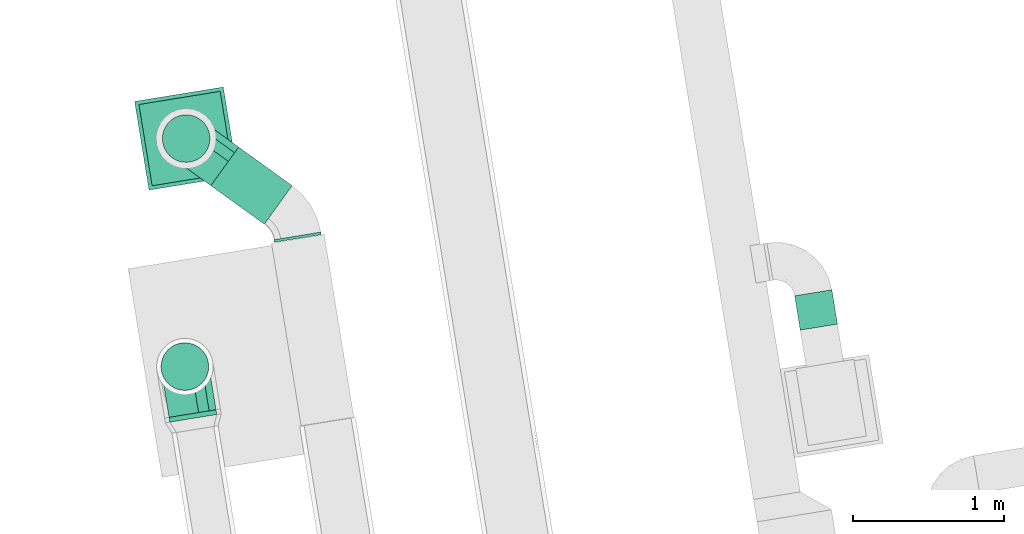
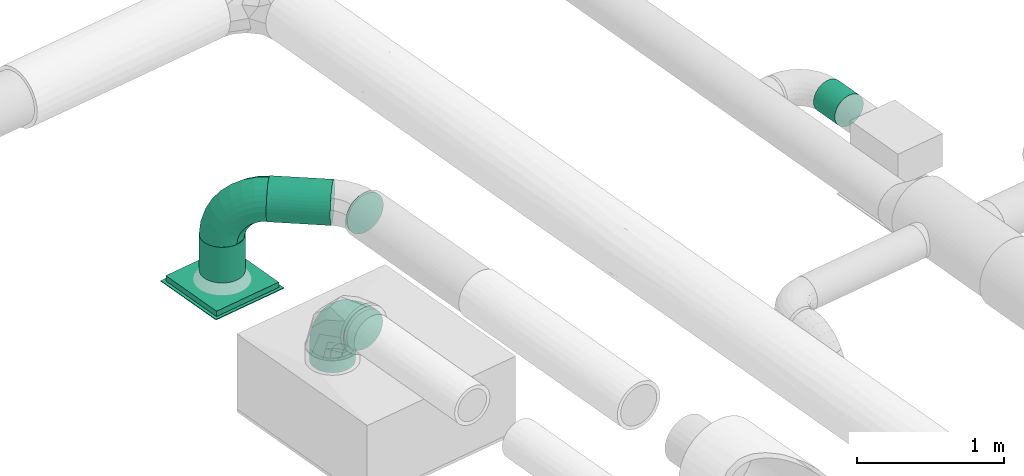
# One storey, part 24 of 39: 6 flow segments, 2 flow fittings, 1 flow terminal.
"""IFC2X3 building model written with IfcOpenShell, lengths in millimetres."""

import ifcopenshell
import ifcopenshell.guid

model = None  # the IFC model being written
_history = None  # IfcOwnerHistory: only IFC2X3 demands one
_inside = {}  # id of a spatial element -> (the spatial element, [elements in it])
_under = {}  # id of a project, library or spatial element -> (it, [spatial elements below it])
_declared = {}  # id of a project -> (the project, [libraries it declares])
_typed = {}  # id of a type object -> (the type object, [elements of that type])
_made_of = {}  # id of a material, layer set ... -> (it, [elements and type objects made of it])


def new_model(schema):
    """Start an empty IFC model of exactly this schema.

    Asked for "IFC4X3", IfcOpenShell would pick the latest addendum, in which some entities
    have other attributes; the version numbers below select the first issue.
    IFC2X3 requires an IfcOwnerHistory on every rooted entity: one is made here for all.
    """
    global model, _history
    if schema == "IFC4X3":
        model = ifcopenshell.file(schema_version=(4, 3, 0, 0))
    else:
        model = ifcopenshell.file(schema=schema)
    _inside.clear()
    _under.clear()
    _declared.clear()
    _typed.clear()
    _made_of.clear()
    _history = None
    if model.schema == "IFC2X3":
        org = make("IfcOrganization", Name="unknown")
        user = make(
            "IfcPersonAndOrganization",
            ThePerson=make("IfcPerson", FamilyName="unknown"),
            TheOrganization=org,
        )
        app = make(
            "IfcApplication",
            ApplicationDeveloper=org,
            Version="unknown",
            ApplicationFullName="unknown",
            ApplicationIdentifier="unknown",
        )
        _history = make(
            "IfcOwnerHistory",
            OwningUser=user,
            OwningApplication=app,
            ChangeAction="ADDED",
            CreationDate=0,
        )
    return model


def make(cls, **values):
    """One entity of the class cls with the attributes given. An attribute that is None is left unset."""
    return model.create_entity(
        cls, **{name: value for name, value in values.items() if value is not None}
    )


def entity(cls, *values):
    """Any entity or typed value of the class cls, its attributes in the order of the schema. None: left unset."""
    e = model.create_entity(cls)
    for i, value in enumerate(values):
        if value is not None:
            e[i] = value
    return e


def rooted(cls, **values):
    """An entity with a GlobalId (a new one), such as an element, a storey or a relation."""
    return make(cls, GlobalId=ifcopenshell.guid.new(), OwnerHistory=_history, **values)


def si_unit(unit_type, name, prefix=None):
    """IfcSIUnit, for example si_unit("LENGTHUNIT", "METRE", prefix="MILLI")."""
    return make("IfcSIUnit", UnitType=unit_type, Prefix=prefix, Name=name)


def converted_unit(unit_type, name, factor, base, dimensions=None, offset=None):
    """IfcConversionBasedUnit, such as the inch: factor (a typed value) times the base unit."""
    return make(
        "IfcConversionBasedUnit"
        if offset is None
        else "IfcConversionBasedUnitWithOffset",
        ConversionOffset=offset,
        Dimensions=None
        if dimensions is None
        else entity("IfcDimensionalExponents", *dimensions),
        UnitType=unit_type,
        Name=name,
        ConversionFactor=make(
            "IfcMeasureWithUnit", ValueComponent=factor, UnitComponent=base
        ),
    )


def derived_unit(unit_type, elements):
    """IfcDerivedUnit: a product of units, each with its exponent."""
    return make(
        "IfcDerivedUnit",
        Elements=[
            make("IfcDerivedUnitElement", Unit=unit, Exponent=power)
            for unit, power in elements
        ],
        UnitType=unit_type,
    )


def assignment(units):
    """IfcUnitAssignment: the units of a project."""
    return None if units is None else make("IfcUnitAssignment", Units=units)


def point(xyz):
    """IfcCartesianPoint."""
    return None if xyz is None else make("IfcCartesianPoint", Coordinates=xyz)


def direction(xyz):
    """IfcDirection."""
    return None if xyz is None else make("IfcDirection", DirectionRatios=xyz)


def frame(location, z_axis=None, x_axis=None):
    """IfcAxis2Placement3D, a coordinate frame: its origin and axes. An axis left out is left unset."""
    return make(
        "IfcAxis2Placement3D",
        Location=point(location),
        Axis=direction(z_axis),
        RefDirection=direction(x_axis),
    )


def frame_2d(location, x_axis=None):
    """IfcAxis2Placement2D, a coordinate frame in the plane: its origin and x axis."""
    return make(
        "IfcAxis2Placement2D", Location=point(location), RefDirection=direction(x_axis)
    )


def origin():
    """The frame at (0, 0, 0) with its axes left unset."""
    return frame((0.0, 0.0, 0.0))


def origin_with_axes():
    """The frame at (0, 0, 0) with the z axis (0, 0, 1) and the x axis (1, 0, 0) written out."""
    return frame((0.0, 0.0, 0.0), z_axis=(0.0, 0.0, 1.0), x_axis=(1.0, 0.0, 0.0))


def origin_2d_with_axis():
    """The frame at (0, 0) in the plane with the x axis (1, 0) written out."""
    return frame_2d((0.0, 0.0), x_axis=(1.0, 0.0))


def place(relative_to, where):
    """IfcLocalPlacement: puts the frame where relative to a parent placement (None: the world)."""
    return make(
        "IfcLocalPlacement", PlacementRelTo=relative_to, RelativePlacement=where
    )


def context(
    kind, dimensions, precision=None, world=None, true_north=None, identifier=None
):
    """IfcGeometricRepresentationContext, for example the 3D "Model" context."""
    return make(
        "IfcGeometricRepresentationContext",
        ContextIdentifier=identifier,
        ContextType=kind,
        CoordinateSpaceDimension=dimensions,
        Precision=precision,
        WorldCoordinateSystem=world,
        TrueNorth=true_north,
    )


def subcontext(parent, identifier, kind, view, scale=None):
    """IfcGeometricRepresentationSubContext, for example "Body" below "Model"."""
    return make(
        "IfcGeometricRepresentationSubContext",
        ContextIdentifier=identifier,
        ContextType=kind,
        ParentContext=parent,
        TargetScale=scale,
        TargetView=view,
    )


def project(units=None, contexts=None):
    """IfcProject with its units and contexts."""
    return rooted(
        "IfcProject",
        Name="project",
        RepresentationContexts=contexts,
        UnitsInContext=assignment(units),
    )


def spatial(cls, under=None, at=None, **own):
    """A site, building, storey or space (cls), placed at a placement, below another one or the project."""
    s = rooted(cls, ObjectPlacement=at, **own)
    if under is not None:
        _under.setdefault(under.id(), (under, []))[1].append(s)
    return s


def profile(cls, at=None, kind="AREA", **sizes):
    """A parametric profile (cls). Its sizes go by their IFC names, for example OverallWidth=200.0."""
    return make(cls, ProfileType=kind, Position=at, **sizes)


def rectangle(**sizes):
    """IfcRectangleProfileDef."""
    return profile("IfcRectangleProfileDef", **sizes)


def circle(**sizes):
    """IfcCircleProfileDef."""
    return profile("IfcCircleProfileDef", **sizes)


def extrude(swept, where, along, depth):
    """IfcExtrudedAreaSolid: the profile swept, set in the frame where, extruded along a direction by depth."""
    return make(
        "IfcExtrudedAreaSolid",
        SweptArea=swept,
        Position=where,
        ExtrudedDirection=direction(along),
        Depth=depth,
    )


def faces_of(points, faces, orient=None, outer=None):
    """IfcFace entities. A face is a list of loops; a loop is a list of indices into points, from 0.

    orient and outer hold one flag for each loop. By default every Orientation is true, the
    first loop of a face is its IfcFaceOuterBound and the others are IfcFaceBound.
    """
    made = []
    for i, loops in enumerate(faces):
        bounds = []
        for j, loop in enumerate(loops):
            is_outer = j == 0 if outer is None else outer[i][j]
            bounds.append(
                make(
                    "IfcFaceOuterBound" if is_outer else "IfcFaceBound",
                    Bound=make("IfcPolyLoop", Polygon=[points[k] for k in loop]),
                    Orientation=True if orient is None else orient[i][j],
                )
            )
        made.append(make("IfcFace", Bounds=bounds))
    return made


def faceted_brep(points, faces, orient=None, outer=None, voids=None):
    """IfcFacetedBrep: a solid bounded by flat faces; with voids (closed shells), ...WithVoids."""
    shared = [point(p) for p in points]
    hull = make("IfcClosedShell", CfsFaces=faces_of(shared, faces, orient, outer))
    if voids is None:
        return make("IfcFacetedBrep", Outer=hull)
    return make(
        "IfcFacetedBrepWithVoids",
        Outer=hull,
        Voids=[
            make(cls, CfsFaces=faces_of(shared, fs, o, b)) for cls, fs, o, b in voids
        ],
    )


def shape(context_of_items, identifier, shape_type, items):
    """IfcShapeRepresentation: the items that make up one representation, for example the "Body"."""
    return make(
        "IfcShapeRepresentation",
        ContextOfItems=context_of_items,
        RepresentationIdentifier=identifier,
        RepresentationType=shape_type,
        Items=items,
    )


def source(mapping_origin, context_of_items, identifier, shape_type, items):
    """IfcRepresentationMap: a shape defined once, which mapped items show again and again."""
    return make(
        "IfcRepresentationMap",
        MappingOrigin=mapping_origin,
        MappedRepresentation=shape(context_of_items, identifier, shape_type, items),
    )


def transform(
    local_origin,
    x_axis=None,
    y_axis=None,
    z_axis=None,
    scale=None,
    scale2=None,
    scale3=None,
    uniform=True,
):
    """IfcCartesianTransformationOperator3D, or its non-uniform kind. x_axis, y_axis, z_axis: its Axis1, 2, 3."""
    if uniform:
        return make(
            "IfcCartesianTransformationOperator3D",
            Axis1=direction(x_axis),
            Axis2=direction(y_axis),
            LocalOrigin=point(local_origin),
            Scale=scale,
            Axis3=direction(z_axis),
        )
    return make(
        "IfcCartesianTransformationOperator3DnonUniform",
        Axis1=direction(x_axis),
        Axis2=direction(y_axis),
        LocalOrigin=point(local_origin),
        Scale=scale,
        Axis3=direction(z_axis),
        Scale2=scale2,
        Scale3=scale3,
    )


def mapped(mapping_source, mapping_target):
    """IfcMappedItem: shows the shape of a source again, moved by a transform."""
    return make(
        "IfcMappedItem", MappingSource=mapping_source, MappingTarget=mapping_target
    )


def material(Name=None, Category=None):
    """IfcMaterial."""
    return make("IfcMaterial", Name=Name, Category=Category)


def made_of(thing, what):
    """Note that an element or type object is made of a material, layer set ...; save() writes the relation."""
    if what is not None:
        _made_of.setdefault(what.id(), (what, []))[1].append(thing)
    return thing


def type_object(cls, material=None, **own):
    """A type object (cls), such as IfcWallType, which elements share."""
    return made_of(rooted(cls, **own), material)


def element(
    cls,
    number,
    at=None,
    inside=None,
    cuts=None,
    type_object=None,
    material=None,
    context=None,
    identifier="Body",
    shape_type=None,
    held_by="IfcProductDefinitionShape",
    body=None,
    shapes=None,
    **own,
):
    """One element of the class cls, such as IfcWall. Its Tag is "e" and its number.

    at: its placement. inside: the storey or other place that contains it. cuts: it is an
    opening in that element (IfcRelVoidsElement). A single representation is given by context,
    identifier, shape_type and body (its items); several are given by shapes. held_by: the class
    of the entity that holds the representations. save() writes the other relations.
    """
    e = rooted(cls, Tag="e%d" % number, ObjectPlacement=at, **own)
    if body is not None:
        shapes = [shape(context, identifier, shape_type, body)]
    if shapes is not None:
        e.Representation = make(held_by, Representations=shapes)
    if inside is not None:
        _inside.setdefault(inside.id(), (inside, []))[1].append(e)
    if cuts is not None:
        rooted(
            "IfcRelVoidsElement", RelatingBuildingElement=cuts, RelatedOpeningElement=e
        )
    if type_object is not None:
        _typed.setdefault(type_object.id(), (type_object, []))[1].append(e)
    return made_of(e, material)


def aggregate(whole, parts):
    """IfcRelAggregates: a whole, such as a stair, and the parts it consists of."""
    return rooted("IfcRelAggregates", RelatingObject=whole, RelatedObjects=parts)


def save(model, path):
    """Write the relations noted so far, then the file.

    IfcRelAggregates (storeys below a building ...), IfcRelContainedInSpatialStructure (elements
    in a storey), IfcRelDefinesByType, IfcRelAssociatesMaterial and IfcRelDeclares: one each for
    every whole, place, type object, material and project.
    """
    for whole, parts in _under.values():
        aggregate(whole, parts)
    for where, things in _inside.values():
        rooted(
            "IfcRelContainedInSpatialStructure",
            RelatedElements=things,
            RelatingStructure=where,
        )
    for kind, things in _typed.values():
        rooted("IfcRelDefinesByType", RelatedObjects=things, RelatingType=kind)
    for what, things in _made_of.values():
        rooted("IfcRelAssociatesMaterial", RelatedObjects=things, RelatingMaterial=what)
    for by, libraries in _declared.values():
        rooted("IfcRelDeclares", RelatingContext=by, RelatedDefinitions=libraries)
    model.write(path)


model = new_model("IFC2X3")

# Units and contexts
plan_context = context("Plan", 3, precision=1e-05, world=origin_with_axes())
model_context = context("Model", 3, precision=0.01, world=origin(), true_north=direction((6.12323399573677e-17, 1.0)))
body_context = subcontext(model_context, "Body", "Model", "MODEL_VIEW")
ifc_project = project(units=[converted_unit("PLANEANGLEUNIT", "DEGREE", entity("IfcPositiveLengthMeasure", 0.0174532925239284), si_unit("PLANEANGLEUNIT", "RADIAN"), dimensions=[0, 0, 0, 0, 0, 0, 0]), si_unit("AREAUNIT", "SQUARE_METRE"), si_unit("LENGTHUNIT", "METRE", prefix="MILLI"), si_unit("MASSUNIT", "GRAM", prefix="KILO"), si_unit("POWERUNIT", "WATT"), si_unit("PRESSUREUNIT", "PASCAL", prefix="KILO"), si_unit("FORCEUNIT", "NEWTON", prefix="KILO"), si_unit("ELECTRICVOLTAGEUNIT", "VOLT"), si_unit("ELECTRICCURRENTUNIT", "AMPERE"), si_unit("THERMODYNAMICTEMPERATUREUNIT", "DEGREE_CELSIUS"), si_unit("TIMEUNIT", "SECOND"), si_unit("VOLUMEUNIT", "CUBIC_METRE"), derived_unit("LINEARVELOCITYUNIT", [(si_unit("LENGTHUNIT", "METRE"), 1), (si_unit("TIMEUNIT", "SECOND"), -1)]), derived_unit("VOLUMETRICFLOWRATEUNIT", [(si_unit("VOLUMEUNIT", "CUBIC_METRE"), 1), (si_unit("TIMEUNIT", "SECOND"), -1)]), derived_unit("THERMALTRANSMITTANCEUNIT", [(si_unit("POWERUNIT", "WATT"), 1), (si_unit("THERMODYNAMICTEMPERATUREUNIT", "KELVIN"), -1), (si_unit("AREAUNIT", "SQUARE_METRE"), -1)]), derived_unit("SOUNDPRESSUREUNIT", [(si_unit("PRESSUREUNIT", "PASCAL"), 1)])], contexts=[model_context, plan_context])

# Site, building, storey
site_placement = place(None, frame((-0.00071070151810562, 0.00438415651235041, 0.0), z_axis=(0.0, 0.0, 1.0), x_axis=(-0.160236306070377, 0.987078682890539, 0.0)))
site = spatial("IfcSite", under=ifc_project, at=site_placement, Name="Default", CompositionType="ELEMENT")
building_placement = place(site_placement, origin_with_axes())
building = spatial("IfcBuilding", under=site, at=building_placement, CompositionType="ELEMENT")
storey_placement = place(building_placement, frame((0.0, 0.0, 58999.9999999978), z_axis=(0.0, 0.0, 1.0), x_axis=(1.0, 0.0, 0.0)))
storey = spatial("IfcBuildingStorey", under=building, at=storey_placement, Name="Nivå F", CompositionType="ELEMENT", Elevation=58999.9999999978)

# Flow fittings
ifc_material = material(Name="<Unnamed>")
duct_fitting_type = type_object("IfcDuctFittingType", Name="magicirc_elbow_full_radius_1:magicirc_elbow_full_radius_001", PredefinedType="NOTDEFINED", material=ifc_material)
shared_shape_1 = source(origin(), body_context, "Body", "Brep", [
    faceted_brep([(-222.819822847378, -148.421044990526, 0.0), (-223.866810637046, -143.157481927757, 40.7639996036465), (-315.0, -152.133317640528, 40.7639996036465), (-315.0, -157.5, 0.0), (-226.936423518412, -127.725495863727, 78.7499999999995), (-315.0, -136.399001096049, 78.7499999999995), (-231.819472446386, -103.176751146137, 111.369318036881), (-315.0, -111.369318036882, 111.369318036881), (-238.183185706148, -71.1842041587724, 136.399001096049), (-315.0, -78.7500000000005, 136.399001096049), (-245.593886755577, -33.9280941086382, 152.133317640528), (-315.0, -40.7639996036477, 152.133317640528), (-253.546548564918, 6.0526366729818, 157.5), (-315.0, 0.0, 157.5), (-261.499210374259, 46.033367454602, 152.133317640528), (-315.0, 40.7639996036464, 152.133317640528), (-268.909911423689, 83.2894775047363, 136.399001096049), (-315.0, 78.7499999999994, 136.399001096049), (-275.27362468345, 115.282024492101, 111.369318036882), (-315.0, 111.369318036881, 111.369318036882), (-283.226286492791, 155.262755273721, 40.7639996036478), (-315.0, 152.133317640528, 40.7639996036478), (-284.273274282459, 160.526318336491, 0.0), (-315.0, 157.5, 0.0), (-283.226286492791, 155.262755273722, -40.763999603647), (-315.0, 152.133317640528, -40.763999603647), (-280.156673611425, 139.830769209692, -78.7499999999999), (-315.0, 136.399001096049, -78.7499999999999), (-275.27362468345, 115.282024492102, -111.369318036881), (-315.0, 111.369318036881, -111.369318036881), (-268.909911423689, 83.289477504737, -136.399001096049), (-315.0, 78.7500000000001, -136.399001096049), (-261.499210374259, 46.0333674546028, -152.133317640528), (-315.0, 40.7639996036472, -152.133317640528), (-253.546548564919, 6.05263667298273, -157.5), (-315.0, 0.0, -157.5), (-245.593886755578, -33.9280941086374, -152.133317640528), (-315.0, -40.7639996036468, -152.133317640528), (-238.183185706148, -71.1842041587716, -136.399001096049), (-315.0, -78.7499999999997, -136.399001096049), (-231.819472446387, -103.176751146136, -111.369318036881), (-315.0, -111.369318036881, -111.369318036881), (-223.866810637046, -143.157481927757, -40.7639996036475), (-315.0, -152.133317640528, -40.7639996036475), (-134.182078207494, -121.533079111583, 0.0), (-136.235818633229, -116.574911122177, 40.7639996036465), (-142.25708089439, -102.03829810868, 78.7499999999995), (-151.835525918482, -78.91388622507, 111.369318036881), (-164.318398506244, -48.7775659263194, 136.399001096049), (-178.855011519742, -13.6830776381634, 152.133317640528), (-194.454718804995, 23.9779472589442, 157.5), (-210.054426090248, 61.638972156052, 152.133317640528), (-224.591039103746, 96.7334604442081, 136.399001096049), (-237.073911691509, 126.869780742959, 111.369318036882), (-252.673618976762, 164.530805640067, 40.7639996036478), (-254.727359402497, 169.488973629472, 0.0), (-252.673618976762, 164.530805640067, -40.763999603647), (-246.652356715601, 149.994192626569, -78.7499999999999), (-237.073911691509, 126.86978074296, -111.369318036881), (-224.591039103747, 96.7334604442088, -136.399001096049), (-210.054426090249, 61.6389721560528, -152.133317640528), (-194.454718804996, 23.9779472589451, -157.5), (-178.855011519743, -13.6830776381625, -152.133317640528), (-164.318398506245, -48.7775659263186, -136.399001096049), (-151.835525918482, -78.9138862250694, -111.369318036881), (-136.23581863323, -116.574911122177, -40.7639996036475), (-52.4930648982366, -77.8693918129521, 0.0), (-55.4746338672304, -73.4071585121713, 40.7639996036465), (-64.2161517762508, -60.3245524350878, 78.7499999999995), (-78.1218986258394, -39.5131315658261, 111.369318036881), (-96.24422074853, -12.3911598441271, 136.399001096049), (-117.348111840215, 19.1930451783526, 152.133317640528), (-139.995376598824, 53.087072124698, 157.5), (-162.642641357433, 86.9810990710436, 152.133317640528), (-183.746532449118, 118.565304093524, 136.399001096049), (-201.868854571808, 145.687275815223, 111.369318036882), (-224.516119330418, 179.581302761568, 40.7639996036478), (-227.497688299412, 184.043536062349, 0.0), (-224.516119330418, 179.581302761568, -40.763999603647), (-215.774601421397, 166.498696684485, -78.7499999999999), (-201.868854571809, 145.687275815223, -111.369318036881), (-183.746532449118, 118.565304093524, -136.399001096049), (-162.642641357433, 86.9810990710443, -152.133317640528), (-139.995376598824, 53.0870721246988, -157.5), (-117.348111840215, 19.1930451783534, -152.133317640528), (-96.2442207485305, -12.3911598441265, -136.399001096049), (-78.1218986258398, -39.5131315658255, -111.369318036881), (-55.4746338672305, -73.4071585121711, -40.7639996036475), (19.1079541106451, -19.107954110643, 0.0), (15.3131366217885, -15.3131366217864, 40.7639996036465), (4.18729469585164, -4.18729469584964, 78.7499999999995), (-13.5113639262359, 13.5113639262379, 111.369318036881), (-36.5767049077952, 36.5767049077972, 136.399001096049), (-63.4368633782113, 63.4368633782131, 152.133317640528), (-92.2613639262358, 92.2613639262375, 157.5), (-121.085864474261, 121.085864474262, 152.133317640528), (-147.946022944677, 147.946022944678, 136.399001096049), (-171.011363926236, 171.011363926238, 111.369318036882), (-199.835864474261, 199.835864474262, 40.7639996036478), (-203.630681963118, 203.630681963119, 0.0), (-199.835864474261, 199.835864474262, -40.763999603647), (-188.710022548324, 188.710022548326, -78.7499999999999), (-171.011363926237, 171.011363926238, -111.369318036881), (-147.946022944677, 147.946022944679, -136.399001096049), (-121.085864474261, 121.085864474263, -152.133317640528), (-92.2613639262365, 92.2613639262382, -157.5), (-63.436863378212, 63.4368633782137, -152.133317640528), (-36.5767049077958, 36.5767049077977, -136.399001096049), (-13.5113639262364, 13.5113639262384, -111.369318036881), (15.3131366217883, -15.3131366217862, -40.7639996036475), (77.8693918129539, 52.4930648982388, 0.0), (73.4071585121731, 55.4746338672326, 40.7639996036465), (60.3245524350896, 64.216151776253, 78.7499999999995), (39.5131315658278, 78.1218986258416, 111.369318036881), (12.3911598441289, 96.2442207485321, 136.399001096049), (-19.1930451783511, 117.348111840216, 152.133317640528), (-53.0870721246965, 139.995376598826, 157.5), (-86.9810990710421, 162.642641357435, 152.133317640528), (-118.565304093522, 183.746532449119, 136.399001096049), (-145.687275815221, 201.86885457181, 111.369318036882), (-179.581302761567, 224.516119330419, 40.7639996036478), (-184.043536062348, 227.497688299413, 0.0), (-179.581302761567, 224.516119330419, -40.763999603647), (-166.498696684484, 215.774601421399, -78.7499999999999), (-145.687275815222, 201.86885457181, -111.369318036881), (-118.565304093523, 183.74653244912, -136.399001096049), (-86.9810990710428, 162.642641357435, -152.133317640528), (-53.0870721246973, 139.995376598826, -157.5), (-19.1930451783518, 117.348111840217, -152.133317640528), (12.3911598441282, 96.2442207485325, -136.399001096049), (39.5131315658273, 78.1218986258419, -111.369318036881), (73.4071585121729, 55.4746338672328, -40.7639996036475), (121.533079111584, 134.182078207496, 0.0), (116.574911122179, 136.235818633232, 40.7639996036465), (102.038298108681, 142.257080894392, 78.7499999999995), (78.9138862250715, 151.835525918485, 111.369318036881), (48.7775659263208, 164.318398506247, 136.399001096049), (13.6830776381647, 178.855011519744, 152.133317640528), (-23.9779472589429, 194.454718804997, 157.5), (-61.6389721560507, 210.05442609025, 152.133317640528), (-96.7334604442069, 224.591039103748, 136.399001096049), (-126.869780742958, 237.07391169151, 111.369318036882), (-164.530805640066, 252.673618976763, 40.7639996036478), (-169.488973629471, 254.727359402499, 0.0), (-164.530805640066, 252.673618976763, -40.763999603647), (-149.994192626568, 246.652356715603, -78.7499999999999), (-126.869780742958, 237.07391169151, -111.369318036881), (-96.7334604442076, 224.591039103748, -136.399001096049), (-61.6389721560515, 210.05442609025, -152.133317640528), (-23.9779472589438, 194.454718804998, -157.5), (13.6830776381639, 178.855011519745, -152.133317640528), (48.7775659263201, 164.318398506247, -136.399001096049), (78.9138862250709, 151.835525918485, -111.369318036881), (116.574911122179, 136.235818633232, -40.7639996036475), (148.421044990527, 222.81982284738, 0.0), (143.157481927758, 223.866810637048, 40.7639996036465), (127.725495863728, 226.936423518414, 78.7499999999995), (103.176751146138, 231.819472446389, 111.369318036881), (71.1842041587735, 238.18318570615, 136.399001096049), (33.9280941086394, 245.59388675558, 152.133317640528), (-6.05263667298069, 253.54654856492, 157.5), (-46.0333674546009, 261.499210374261, 152.133317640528), (-83.2894775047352, 268.90991142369, 136.399001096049), (-115.2820244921, 275.273624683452, 111.369318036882), (-155.26275527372, 283.226286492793, 40.7639996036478), (-160.52631833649, 284.27327428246, 0.0), (-155.262755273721, 283.226286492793, -40.763999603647), (-139.83076920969, 280.156673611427, -78.7499999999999), (-115.282024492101, 275.273624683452, -111.369318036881), (-83.2894775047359, 268.90991142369, -136.399001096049), (-46.0333674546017, 261.499210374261, -152.133317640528), (-6.05263667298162, 253.54654856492, -157.5), (33.9280941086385, 245.59388675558, -152.133317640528), (71.1842041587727, 238.183185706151, -136.399001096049), (103.176751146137, 231.819472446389, -111.369318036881), (143.157481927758, 223.866810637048, -40.7639996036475), (157.500000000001, 315.0, 0.0), (152.133317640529, 315.0, 40.7639996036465), (136.39900109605, 315.0, 78.7499999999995), (111.369318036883, 315.0, 111.369318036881), (78.7500000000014, 315.0, 136.399001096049), (40.7639996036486, 315.0, 152.133317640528), (0.0, 315.0, 157.5), (-40.7639996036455, 315.0, 152.133317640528), (-78.7499999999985, 315.0, 136.399001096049), (-111.36931803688, 315.0, 111.369318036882), (-152.133317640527, 315.0, 40.7639996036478), (-157.499999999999, 315.0, 0.0), (-152.133317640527, 315.0, -40.763999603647), (-136.399001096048, 315.0, -78.7499999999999), (-111.36931803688, 315.0, -111.369318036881), (-78.7499999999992, 315.0, -136.399001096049), (-40.7639996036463, 315.0, -152.133317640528), (0.0, 315.0, -157.5), (40.7639996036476, 315.0, -152.133317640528), (78.7500000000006, 315.0, -136.399001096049), (111.369318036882, 315.0, -111.369318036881), (152.133317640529, 315.0, -40.7639996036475)], [[[0, 1, 2, 3]], [[1, 4, 5, 2]], [[4, 6, 7, 5]], [[6, 8, 9, 7]], [[8, 10, 11, 9]], [[10, 12, 13, 11]], [[12, 14, 15, 13]], [[14, 16, 17, 15]], [[16, 18, 19, 17]], [[18, 20, 21, 19]], [[20, 22, 23, 21]], [[22, 24, 25, 23]], [[24, 26, 27, 25]], [[26, 28, 29, 27]], [[28, 30, 31, 29]], [[30, 32, 33, 31]], [[32, 34, 35, 33]], [[34, 36, 37, 35]], [[36, 38, 39, 37]], [[38, 40, 41, 39]], [[40, 42, 43, 41]], [[42, 0, 3, 43]], [[44, 45, 1, 0]], [[45, 46, 4, 1]], [[46, 47, 6, 4]], [[47, 48, 8, 6]], [[48, 49, 10, 8]], [[49, 50, 12, 10]], [[50, 51, 14, 12]], [[51, 52, 16, 14]], [[52, 53, 18, 16]], [[53, 54, 20, 18]], [[54, 55, 22, 20]], [[55, 56, 24, 22]], [[56, 57, 26, 24]], [[57, 58, 28, 26]], [[58, 59, 30, 28]], [[59, 60, 32, 30]], [[60, 61, 34, 32]], [[61, 62, 36, 34]], [[62, 63, 38, 36]], [[63, 64, 40, 38]], [[64, 65, 42, 40]], [[65, 44, 0, 42]], [[66, 67, 45, 44]], [[67, 68, 46, 45]], [[68, 69, 47, 46]], [[69, 70, 48, 47]], [[70, 71, 49, 48]], [[71, 72, 50, 49]], [[72, 73, 51, 50]], [[73, 74, 52, 51]], [[74, 75, 53, 52]], [[75, 76, 54, 53]], [[76, 77, 55, 54]], [[77, 78, 56, 55]], [[78, 79, 57, 56]], [[79, 80, 58, 57]], [[80, 81, 59, 58]], [[81, 82, 60, 59]], [[82, 83, 61, 60]], [[83, 84, 62, 61]], [[84, 85, 63, 62]], [[85, 86, 64, 63]], [[86, 87, 65, 64]], [[87, 66, 44, 65]], [[88, 89, 67, 66]], [[89, 90, 68, 67]], [[90, 91, 69, 68]], [[91, 92, 70, 69]], [[92, 93, 71, 70]], [[93, 94, 72, 71]], [[94, 95, 73, 72]], [[95, 96, 74, 73]], [[96, 97, 75, 74]], [[97, 98, 76, 75]], [[98, 99, 77, 76]], [[99, 100, 78, 77]], [[100, 101, 79, 78]], [[101, 102, 80, 79]], [[102, 103, 81, 80]], [[103, 104, 82, 81]], [[104, 105, 83, 82]], [[105, 106, 84, 83]], [[106, 107, 85, 84]], [[107, 108, 86, 85]], [[108, 109, 87, 86]], [[109, 88, 66, 87]], [[110, 111, 89, 88]], [[111, 112, 90, 89]], [[112, 113, 91, 90]], [[113, 114, 92, 91]], [[114, 115, 93, 92]], [[115, 116, 94, 93]], [[116, 117, 95, 94]], [[117, 118, 96, 95]], [[118, 119, 97, 96]], [[119, 120, 98, 97]], [[120, 121, 99, 98]], [[121, 122, 100, 99]], [[122, 123, 101, 100]], [[123, 124, 102, 101]], [[124, 125, 103, 102]], [[125, 126, 104, 103]], [[126, 127, 105, 104]], [[127, 128, 106, 105]], [[128, 129, 107, 106]], [[129, 130, 108, 107]], [[130, 131, 109, 108]], [[131, 110, 88, 109]], [[132, 133, 111, 110]], [[133, 134, 112, 111]], [[134, 135, 113, 112]], [[135, 136, 114, 113]], [[136, 137, 115, 114]], [[137, 138, 116, 115]], [[138, 139, 117, 116]], [[139, 140, 118, 117]], [[140, 141, 119, 118]], [[141, 142, 120, 119]], [[142, 143, 121, 120]], [[143, 144, 122, 121]], [[144, 145, 123, 122]], [[145, 146, 124, 123]], [[146, 147, 125, 124]], [[147, 148, 126, 125]], [[148, 149, 127, 126]], [[149, 150, 128, 127]], [[150, 151, 129, 128]], [[151, 152, 130, 129]], [[152, 153, 131, 130]], [[153, 132, 110, 131]], [[154, 155, 133, 132]], [[155, 156, 134, 133]], [[156, 157, 135, 134]], [[157, 158, 136, 135]], [[158, 159, 137, 136]], [[159, 160, 138, 137]], [[160, 161, 139, 138]], [[161, 162, 140, 139]], [[162, 163, 141, 140]], [[163, 164, 142, 141]], [[164, 165, 143, 142]], [[165, 166, 144, 143]], [[166, 167, 145, 144]], [[167, 168, 146, 145]], [[168, 169, 147, 146]], [[169, 170, 148, 147]], [[170, 171, 149, 148]], [[171, 172, 150, 149]], [[172, 173, 151, 150]], [[173, 174, 152, 151]], [[174, 175, 153, 152]], [[175, 154, 132, 153]], [[176, 177, 155, 154]], [[177, 178, 156, 155]], [[178, 179, 157, 156]], [[179, 180, 158, 157]], [[180, 181, 159, 158]], [[181, 182, 160, 159]], [[182, 183, 161, 160]], [[183, 184, 162, 161]], [[184, 185, 163, 162]], [[185, 186, 164, 163]], [[186, 187, 165, 164]], [[187, 188, 166, 165]], [[188, 189, 167, 166]], [[189, 190, 168, 167]], [[190, 191, 169, 168]], [[191, 192, 170, 169]], [[192, 193, 171, 170]], [[193, 194, 172, 171]], [[194, 195, 173, 172]], [[195, 196, 174, 173]], [[196, 197, 175, 174]], [[197, 176, 154, 175]], [[3, 2, 5, 7, 9, 11, 13, 15, 17, 19, 21, 23, 25, 27, 29, 31, 33, 35, 37, 39, 41, 43]], [[197, 196, 195, 194, 193, 192, 191, 190, 189, 188, 187, 186, 185, 184, 183, 182, 181, 180, 179, 178, 177, 176]]]),
])
for number, where, z_axis, x_axis, name in (
    (1, (781534.119644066, -501554.980498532, 3130.0), (-0.707106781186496, 0.707106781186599, 0.0), (0.707106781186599, 0.707106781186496, 0.0), "magicirc_elbow_full_radius_1:magicirc_elbow_full_radius_001"),
    (2, (780044.619644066, -501304.709617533, 3130.0), (0.0, 1.0, 0.0), (1.0, 0.0, 0.0), "magicirc_elbow_full_radius_1:magicirc_elbow_full_radius_001"),
):
    element("IfcFlowFitting", number, at=place(storey_placement, frame(where, z_axis=z_axis, x_axis=x_axis)), inside=storey, type_object=duct_fitting_type, material=ifc_material, Name=name, ObjectType="magicirc_elbow_full_radius_1:magicirc_elbow_full_radius_001", context=body_context, shape_type="MappedRepresentation", body=[
        mapped(shared_shape_1, transform((0.0, 0.0, 0.0), scale=1.0)),
    ])

# Flow terminal
air_terminal_type = type_object("IfcAirTerminalType", Name="FRALUFTSVENTIL -  - SF020T:FRALUFTSVENTIL - Orion-ATV-K-TA-T-400 - SF020T", PredefinedType="NOTDEFINED", material=ifc_material)
shared_shape_2 = source(origin(), body_context, "Body", "SweptSolid", [
    extrude(rectangle(XDim=594.999999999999, YDim=594.999999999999, at=origin_2d_with_axis()), frame((0.0, 0.0, -6.0)), (0.0, 0.0, 1.0), 5.99999999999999),
    extrude(rectangle(XDim=544.999999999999, YDim=544.999999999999, at=origin_2d_with_axis()), origin(), (0.0, 0.0, 1.0), 44.0),
])
flow_terminal_placement = place(storey_placement, frame((781534.119644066, -501554.980498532, 2400.0), z_axis=(0.0, 0.0, 1.0), x_axis=(1.0, 0.0, 0.0)))
element("IfcFlowTerminal", 3, at=flow_terminal_placement, inside=storey, type_object=air_terminal_type, material=ifc_material, Name="FRALUFTSVENTIL -  - SF020T:FRALUFTSVENTIL - Orion-ATV-K-TA-T-400 - SF020T", ObjectType="FRALUFTSVENTIL -  - SF020T:FRALUFTSVENTIL - Orion-ATV-K-TA-T-400 - SF020T", context=body_context, shape_type="MappedRepresentation", body=[
    mapped(shared_shape_2, transform((0.0, 0.0, 0.0), scale=1.0)),
])

# Flow segments
duct_segment_type = type_object("IfcDuctSegmentType", Name="Round Duct:KK001T - Spiro kanaler, Forsinket stål", PredefinedType="NOTDEFINED")
flow_segment_1_placement = place(storey_placement, origin_with_axes())
element("IfcFlowSegment", 4, at=flow_segment_1_placement, inside=storey, type_object=duct_segment_type, Name="Round Duct:KK001T - Spiro kanaler, Forsinket stål", ObjectType="Round Duct:KK001T - Spiro kanaler, Forsinket stål", context=body_context, shape_type="SweptSolid", body=[
    extrude(circle(Radius=157.5, at=frame_2d((0.0, 8.66293703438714e-12), x_axis=(1.0, 0.0))), frame((781002.526801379, -502086.573341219, 3130.0), z_axis=(0.707106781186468, 0.707106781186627, 0.0), x_axis=(0.707106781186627, -0.707106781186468, 0.0)), (0.0, 0.0, 1.0), 436.785807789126),
])
flow_segment_2_placement = place(storey_placement, origin_with_axes())
element("IfcFlowSegment", 5, at=flow_segment_2_placement, inside=storey, type_object=duct_segment_type, Name="Round Duct:KK001T - Spiro kanaler, Forsinket stål", ObjectType="Round Duct:KK001T - Spiro kanaler, Forsinket stål", context=body_context, shape_type="SweptSolid", body=[
    extrude(circle(Radius=157.5, at=origin_2d_with_axis()), frame((779697.619644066, -501304.709617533, 3130.0), z_axis=(1.0, 0.0, 0.0), x_axis=(0.0, -1.0, 0.0)), (0.0, 0.0, 1.0), 32.0000000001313),
])
flow_segment_3_placement = place(storey_placement, origin_with_axes())
element("IfcFlowSegment", 6, at=flow_segment_3_placement, inside=storey, type_object=duct_segment_type, Name="Round Duct:KK001T - Spiro kanaler, Forsinket stål", ObjectType="Round Duct:KK001T - Spiro kanaler, Forsinket stål", context=body_context, shape_type="SweptSolid", body=[
    extrude(circle(Radius=157.5, at=origin_2d_with_axis()), frame((781534.119644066, -501554.980498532, 2519.03048000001), z_axis=(0.0, 0.0, 1.0), x_axis=(0.0, -1.0, 0.0)), (0.0, 0.0, 1.0), 295.969519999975),
])
flow_segment_4_placement = place(storey_placement, origin_with_axes())
element("IfcFlowSegment", 7, at=flow_segment_4_placement, inside=storey, type_object=duct_segment_type, Name="Round Duct:KK001T - Spiro kanaler, Forsinket stål", ObjectType="Round Duct:KK001T - Spiro kanaler, Forsinket stål", context=body_context, shape_type="SweptSolid", body=[
    extrude(circle(Radius=157.5, at=frame_2d((6.93034962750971e-11, -8.66293703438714e-12), x_axis=(1.0, 0.0))), frame((780762.343051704, -502178.834705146, 3130.03415297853), z_axis=(1.0, 0.0, 0.0), x_axis=(0.0, 1.0, 0.0)), (0.0, 0.0, 1.0), 17.4451136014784),
])
flow_segment_5_placement = place(storey_placement, origin_with_axes())
element("IfcFlowSegment", 8, at=flow_segment_5_placement, inside=storey, type_object=duct_segment_type, Name="Round Duct:KK001T - Spiro kanaler, Forsinket stål", ObjectType="Round Duct:KK001T - Spiro kanaler, Forsinket stål", context=body_context, shape_type="SweptSolid", body=[
    extrude(circle(Radius=157.5, at=frame_2d((0.0, 1.38606992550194e-10), x_axis=(1.0, 0.0))), frame((780044.619644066, -501304.709617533, 2695.0), z_axis=(0.0, 0.0, 1.0), x_axis=(0.0, 1.0, 0.0)), (0.0, 0.0, 1.0), 119.999999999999),
])
flow_segment_6_placement = place(storey_placement, origin_with_axes())
element("IfcFlowSegment", 9, at=flow_segment_6_placement, inside=storey, type_object=duct_segment_type, Name="Round Duct:KK001T - Spiro kanaler, Forsinket stål", ObjectType="Round Duct:KK001T - Spiro kanaler, Forsinket stål", context=body_context, shape_type="SweptSolid", body=[
    extrude(circle(Radius=125.0, at=origin_2d_with_axis()), frame((779630.119644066, -505490.980498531, 3130.0), z_axis=(1.0, 0.0, 0.0), x_axis=(0.0, -1.0, 0.0)), (0.0, 0.0, 1.0), 230.000000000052),
])

save(model, "model.ifc")
